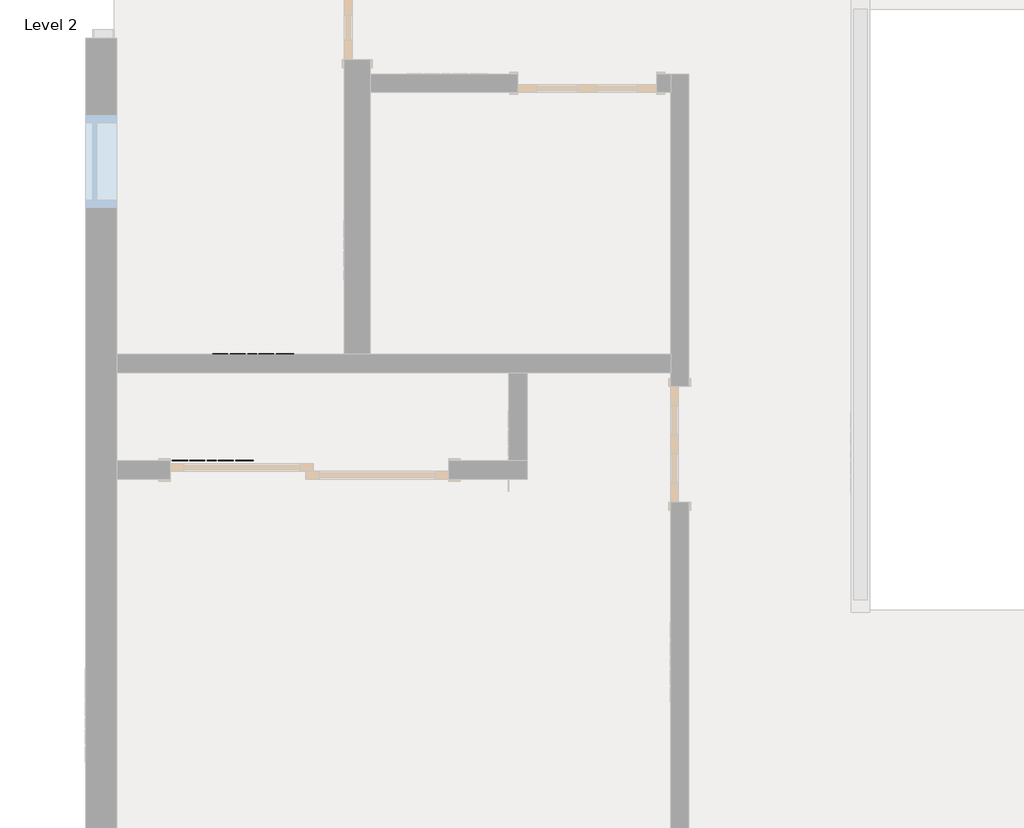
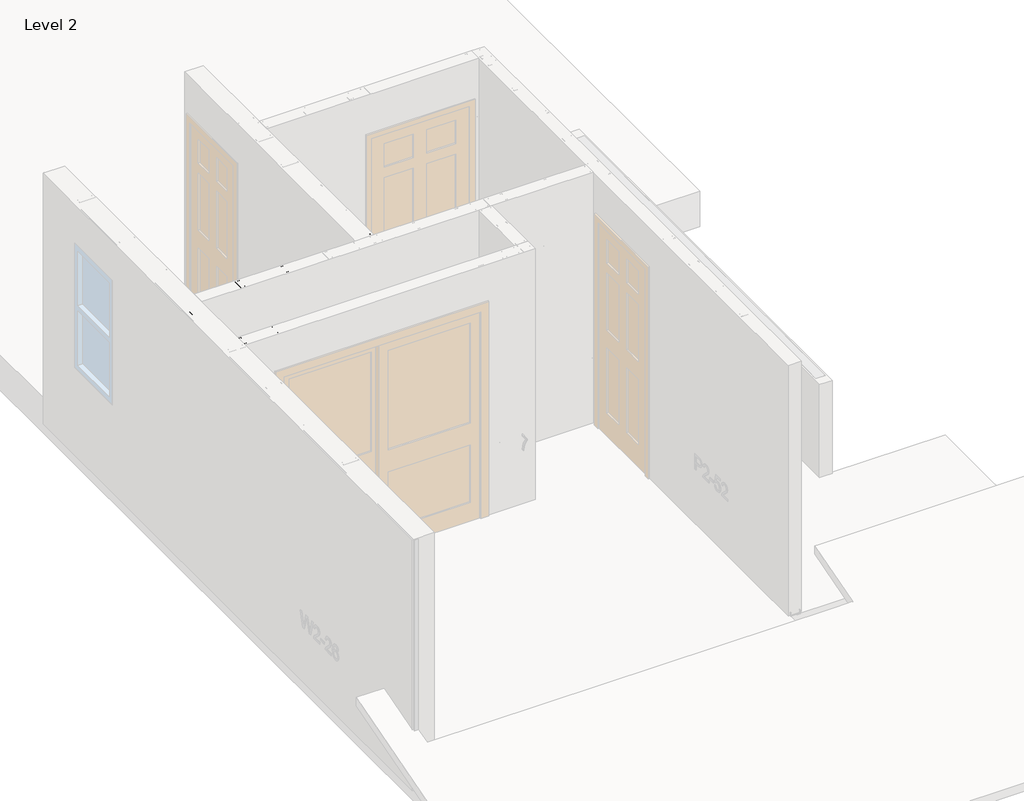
# One storey, part 8 of 46: 7 columns, 2 beams, 2 fasteners.
"""IFC4 building model written with IfcOpenShell, lengths in millimetres."""

from ifc_helpers import new_model, si_unit, point, frame, origin, place, context, project, spatial, circle_curve, ellipse_curve, trimmed, transform, mapped, element, save
from ifc_brep_helpers import plane_surface, extruded_surface, advanced_brep
from components import beam_350nf150_33_0c31a938, beam_350nf150_33_b683acd3, column_350nf150_33_a93e9d8a, panellabel_4ae247b8, panellabel_89169c42

model = new_model("IFC4")

# Units and contexts
model_context = context("Model", 3, world=origin())
ifc_project = project(units=[si_unit("LENGTHUNIT", "METRE", prefix="MILLI")], contexts=[model_context])

# Site, building, storey
site = spatial("IfcSite", under=ifc_project)
building = spatial("IfcBuilding", under=site)
storey = spatial("IfcBuildingStorey", under=building, Name="Level 2", Elevation=3060.7)

# Beams
placement = place(None, origin())
beam_350nf150_33_shape = beam_350nf150_33_0c31a938(model_context)
element("IfcBeam", 1, ObjectType="BIMSF-SSMA-S : 350NF150-33", at=placement, inside=storey, context=model_context, shape_type="MappedRepresentation", body=[
    mapped(beam_350nf150_33_shape, transform((-13289.0913349, 5769.102221, 3076.575), x_axis=(1.0000000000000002, 0.0, 0.0), y_axis=(0.0, 0.0, -1.0000000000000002), z_axis=(0.0, 1.0000000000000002, 0.0))),
])
beam_350nf150_33_2_shape = beam_350nf150_33_b683acd3(model_context)
element("IfcBeam", 2, ObjectType="BIMSF-SSMA-S : 350NF150-33", at=placement, inside=storey, context=model_context, shape_type="MappedRepresentation", body=[
    mapped(beam_350nf150_33_2_shape, transform((-14940.0913349, 5070.602221, 3076.575), x_axis=(1.0000000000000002, 0.0, 0.0), y_axis=(0.0, 0.0, -1.0000000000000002), z_axis=(0.0, 1.0000000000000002, 0.0))),
])

# Columns
element("IfcColumn", 3, ObjectType="BIMSF-SSMA-S-Column : 350NF150-33", at=placement, inside=storey, context=model_context, shape_type="AdvancedBrep", body=[
    advanced_brep(
    [(-15124.2413349, 5026.152221, 3061.5929687), (-15124.2413349, 5115.052221, 3061.5929687), (-15086.1413349, 5115.052221, 3061.5929687), (-15086.1413349, 5109.3947052, 3061.5929687), (-15087.0236507, 5109.3947052, 3061.5929687), (-15087.0236507, 5114.1699052, 3061.5929687), (-15123.3590191, 5114.1699052, 3061.5929687), (-15123.3590191, 5027.0345367, 3061.5929687), (-15087.0236507, 5027.0345367, 3061.5929687), (-15087.0236507, 5031.8097367, 3061.5929687), (-15086.1413349, 5031.8097367, 3061.5929687), (-15086.1413349, 5026.152221, 3061.5929687), (-15124.2413349, 5026.152221, 5523.6070313), (-15124.2413349, 5115.052221, 5523.6070313), (-15124.2413349, 5083.302221, 3671.1929688), (-15124.2413349, 5057.902221, 3671.1929688), (-15124.2413349, 5083.302221, 4890.3929687), (-15124.2413349, 5057.902221, 4890.3929687), (-15086.1413349, 5115.052221, 5523.6070313), (-15086.1413349, 5109.3947052, 5523.6070313), (-15087.0236507, 5109.3947052, 5523.6070313), (-15087.0236507, 5114.1699052, 5523.6070313), (-15123.3590191, 5114.1699052, 5523.6070313), (-15123.3590191, 5027.0345367, 5523.6070313), (-15123.3590191, 5057.902221, 3671.1929688), (-15123.3590191, 5083.302221, 3671.1929688), (-15123.3590191, 5057.902221, 4890.3929687), (-15123.3590191, 5083.302221, 4890.3929687), (-15087.0236507, 5027.0345367, 5523.6070313), (-15087.0236507, 5031.8097367, 5523.6070313), (-15086.1413349, 5031.8097367, 5523.6070313), (-15086.1413349, 5026.152221, 5523.6070313)],
    [
        (0, 1),
        (1, 2),
        (2, 3),
        (3, 4),
        (4, 5),
        (5, 6),
        (6, 7),
        (7, 8),
        (8, 9),
        (9, 10),
        (10, 11),
        (11, 0),
        (0, 12),
        (12, 13),
        (13, 1),
        (14, 15, circle_curve(frame((-15124.2413349, 5070.602221, 3671.1929687), z_axis=(1.0, 0.0, 0.0), x_axis=(0.0, 1.0, 0.0)), 12.7)),
        (15, 14, circle_curve(frame((-15124.2413349, 5070.602221, 3671.1929687), z_axis=(1.0, 0.0, 0.0), x_axis=(0.0, 1.0, 0.0)), 12.7)),
        (16, 17, circle_curve(frame((-15124.2413349, 5070.602221, 4890.3929687), z_axis=(1.0, 0.0, 0.0), x_axis=(0.0, 1.0, 0.0)), 12.7)),
        (17, 16, circle_curve(frame((-15124.2413349, 5070.602221, 4890.3929687), z_axis=(1.0, 0.0, 0.0), x_axis=(0.0, 1.0, 0.0)), 12.7)),
        (13, 18),
        (18, 2),
        (18, 19),
        (19, 3),
        (19, 20),
        (20, 4),
        (20, 21),
        (21, 5),
        (21, 22),
        (22, 6),
        (22, 23),
        (23, 7),
        (24, 25, circle_curve(frame((-15123.3590191, 5070.602221, 3671.1929688), z_axis=(-1.0, 0.0, 0.0), x_axis=(0.0, 1.0, 0.0)), 12.7)),
        (25, 24, circle_curve(frame((-15123.3590191, 5070.602221, 3671.1929688), z_axis=(-1.0, 0.0, 0.0), x_axis=(0.0, 1.0, 0.0)), 12.7)),
        (26, 27, circle_curve(frame((-15123.3590191, 5070.602221, 4890.3929687), z_axis=(-1.0, 0.0, 0.0), x_axis=(0.0, 1.0, 0.0)), 12.7)),
        (27, 26, circle_curve(frame((-15123.3590191, 5070.602221, 4890.3929687), z_axis=(-1.0, 0.0, 0.0), x_axis=(0.0, 1.0, 0.0)), 12.7)),
        (23, 28),
        (28, 8),
        (28, 29),
        (29, 9),
        (29, 30),
        (30, 10),
        (30, 31),
        (31, 11),
        (31, 12),
        (24, 15),
        (14, 25),
        (26, 17),
        (16, 27),
    ],
    [
        plane_surface(frame((-15124.2413349, 5026.152221, 3061.5929687), z_axis=(0.0, 0.0, -1.0), x_axis=(-1.0, 0.0, 0.0))),
        plane_surface(frame((-15124.2413349, 5115.052221, 5523.6070313), z_axis=(-1.0, 0.0, 0.0), x_axis=(0.0, 0.0, -1.0))),
        plane_surface(frame((-15086.1413349, 5115.052221, 5523.6070313), z_axis=(0.0, 1.0, 0.0), x_axis=(0.0, 0.0, -1.0))),
        plane_surface(frame((-15086.1413349, 5109.3947052, 5523.6070313), z_axis=(1.0, 0.0, 0.0), x_axis=(0.0, 0.0, -1.0))),
        plane_surface(frame((-15087.0236507, 5109.3947052, 5523.6070313), z_axis=(0.0, -1.0, 0.0), x_axis=(0.0, 0.0, -1.0))),
        plane_surface(frame((-15087.0236507, 5114.1699052, 5523.6070313), z_axis=(-1.0, 0.0, 0.0), x_axis=(0.0, 0.0, -1.0))),
        plane_surface(frame((-15123.3590191, 5114.1699052, 5523.6070313), z_axis=(0.0, -1.0, 0.0), x_axis=(0.0, 0.0, -1.0))),
        plane_surface(frame((-15123.3590191, 5027.0345367, 5523.6070313), z_axis=(1.0, 0.0, 0.0), x_axis=(0.0, 0.0, -1.0))),
        plane_surface(frame((-15087.0236507, 5027.0345367, 5523.6070313), z_axis=(0.0, 1.0, 0.0), x_axis=(0.0, 0.0, -1.0))),
        plane_surface(frame((-15087.0236507, 5031.8097367, 5523.6070313), z_axis=(-1.0, 0.0, 0.0), x_axis=(0.0, 0.0, -1.0))),
        plane_surface(frame((-15086.1413349, 5031.8097367, 5523.6070313), z_axis=(0.0, 1.0, 0.0), x_axis=(0.0, 0.0, -1.0))),
        plane_surface(frame((-15086.1413349, 5026.152221, 5523.6070313), z_axis=(1.0, 0.0, 0.0), x_axis=(0.0, 0.0, -1.0))),
        plane_surface(frame((-15124.2413349, 5026.152221, 5523.6070313), z_axis=(0.0, -1.0, 0.0), x_axis=(0.0, 0.0, -1.0))),
        plane_surface(frame((-15124.2413349, 5026.152221, 5523.6070313), z_axis=(0.0, 0.0, 1.0), x_axis=(1.0, 0.0, 0.0))),
        extruded_surface(trimmed(ellipse_curve(frame((-12643.1772724, 5070.602221, 3671.1929688), z_axis=(-1.0, 0.0, 0.0), x_axis=(0.0, 1.0, 0.0)), 12.7, 12.7), [point((-12643.1772724, 5057.902221, 3671.1929688))], [point((-12643.1772724, 5083.302221, 3671.1929688))], True, "CARTESIAN"), (4924.028125, 0.0, 0.0), 4924.028125),
        extruded_surface(trimmed(ellipse_curve(frame((-12643.1772724, 5070.602221, 3671.1929688), z_axis=(-1.0, 0.0, 0.0), x_axis=(0.0, 1.0, 0.0)), 12.7, 12.7), [point((-12643.1772724, 5083.302221, 3671.1929688))], [point((-12643.1772724, 5057.902221, 3671.1929688))], True, "CARTESIAN"), (4924.028125, 0.0, 0.0), 4924.028125),
        extruded_surface(trimmed(ellipse_curve(frame((-12643.1772724, 5070.602221, 4890.3929687), z_axis=(-1.0, 0.0, 0.0), x_axis=(0.0, 1.0, 0.0)), 12.7, 12.7), [point((-12643.1772724, 5057.902221, 4890.3929687))], [point((-12643.1772724, 5083.302221, 4890.3929687))], True, "CARTESIAN"), (4924.028125, 0.0, 0.0), 4924.028125),
        extruded_surface(trimmed(ellipse_curve(frame((-12643.1772724, 5070.602221, 4890.3929687), z_axis=(-1.0, 0.0, 0.0), x_axis=(0.0, 1.0, 0.0)), 12.7, 12.7), [point((-12643.1772724, 5083.302221, 4890.3929687))], [point((-12643.1772724, 5057.902221, 4890.3929687))], True, "CARTESIAN"), (4924.028125, 0.0, 0.0), 4924.028125),
    ],
    [
        (0, [[1, 2, 3, 4, 5, 6, 7, 8, 9, 10, 11, 12]]),
        (1, [[-1, 13, 14, 15], [16, 17], [18, 19]]),
        (2, [[-2, -15, 20, 21]]),
        (3, [[-3, -21, 22, 23]]),
        (4, [[-4, -23, 24, 25]]),
        (5, [[-5, -25, 26, 27]]),
        (6, [[-6, -27, 28, 29]]),
        (7, [[-7, -29, 30, 31], [32, 33], [34, 35]]),
        (8, [[-8, -31, 36, 37]]),
        (9, [[-9, -37, 38, 39]]),
        (10, [[-10, -39, 40, 41]]),
        (11, [[-11, -41, 42, 43]]),
        (12, [[-12, -43, 44, -13]]),
        (13, [[-14, -44, -42, -40, -38, -36, -30, -28, -26, -24, -22, -20]]),
        (14, [[45, -16, 46, -32]]),
        (15, [[-45, -33, -46, -17]]),
        (16, [[47, -18, 48, -34]]),
        (17, [[-47, -35, -48, -19]]),
    ],
),
])
element("IfcColumn", 4, ObjectType="BIMSF-SSMA-S-Column : 350NF150-33", at=placement, inside=storey, context=model_context, shape_type="AdvancedBrep", body=[
    advanced_brep(
    [(-15124.2413349, 5724.652221, 3061.5929687), (-15124.2413349, 5813.552221, 3061.5929687), (-15086.1413349, 5813.552221, 3061.5929687), (-15086.1413349, 5807.8947052, 3061.5929687), (-15087.0236507, 5807.8947052, 3061.5929687), (-15087.0236507, 5812.6699052, 3061.5929687), (-15123.3590191, 5812.6699052, 3061.5929687), (-15123.3590191, 5725.5345367, 3061.5929687), (-15087.0236507, 5725.5345367, 3061.5929687), (-15087.0236507, 5730.3097367, 3061.5929687), (-15086.1413349, 5730.3097367, 3061.5929687), (-15086.1413349, 5724.652221, 3061.5929687), (-15124.2413349, 5724.652221, 5523.6070313), (-15124.2413349, 5813.552221, 5523.6070313), (-15124.2413349, 5781.802221, 3671.1929688), (-15124.2413349, 5756.402221, 3671.1929688), (-15124.2413349, 5781.802221, 4890.3929687), (-15124.2413349, 5756.402221, 4890.3929687), (-15086.1413349, 5813.552221, 5523.6070313), (-15086.1413349, 5807.8947052, 5523.6070313), (-15087.0236507, 5807.8947052, 5523.6070313), (-15087.0236507, 5812.6699052, 5523.6070313), (-15123.3590191, 5812.6699052, 5523.6070313), (-15123.3590191, 5725.5345367, 5523.6070313), (-15123.3590191, 5756.402221, 3671.1929688), (-15123.3590191, 5781.802221, 3671.1929688), (-15123.3590191, 5756.402221, 4890.3929687), (-15123.3590191, 5781.802221, 4890.3929687), (-15087.0236507, 5725.5345367, 5523.6070313), (-15087.0236507, 5730.3097367, 5523.6070313), (-15086.1413349, 5730.3097367, 5523.6070313), (-15086.1413349, 5724.652221, 5523.6070313)],
    [
        (0, 1),
        (1, 2),
        (2, 3),
        (3, 4),
        (4, 5),
        (5, 6),
        (6, 7),
        (7, 8),
        (8, 9),
        (9, 10),
        (10, 11),
        (11, 0),
        (0, 12),
        (12, 13),
        (13, 1),
        (14, 15, circle_curve(frame((-15124.2413349, 5769.102221, 3671.1929687), z_axis=(1.0, 0.0, 0.0), x_axis=(0.0, 1.0, 0.0)), 12.7)),
        (15, 14, circle_curve(frame((-15124.2413349, 5769.102221, 3671.1929687), z_axis=(1.0, 0.0, 0.0), x_axis=(0.0, 1.0, 0.0)), 12.7)),
        (16, 17, circle_curve(frame((-15124.2413349, 5769.102221, 4890.3929687), z_axis=(1.0, 0.0, 0.0), x_axis=(0.0, 1.0, 0.0)), 12.7)),
        (17, 16, circle_curve(frame((-15124.2413349, 5769.102221, 4890.3929687), z_axis=(1.0, 0.0, 0.0), x_axis=(0.0, 1.0, 0.0)), 12.7)),
        (13, 18),
        (18, 2),
        (18, 19),
        (19, 3),
        (19, 20),
        (20, 4),
        (20, 21),
        (21, 5),
        (21, 22),
        (22, 6),
        (22, 23),
        (23, 7),
        (24, 25, circle_curve(frame((-15123.3590191, 5769.102221, 3671.1929688), z_axis=(-1.0, 0.0, 0.0), x_axis=(0.0, 1.0, 0.0)), 12.7)),
        (25, 24, circle_curve(frame((-15123.3590191, 5769.102221, 3671.1929688), z_axis=(-1.0, 0.0, 0.0), x_axis=(0.0, 1.0, 0.0)), 12.7)),
        (26, 27, circle_curve(frame((-15123.3590191, 5769.102221, 4890.3929687), z_axis=(-1.0, 0.0, 0.0), x_axis=(0.0, 1.0, 0.0)), 12.7)),
        (27, 26, circle_curve(frame((-15123.3590191, 5769.102221, 4890.3929687), z_axis=(-1.0, 0.0, 0.0), x_axis=(0.0, 1.0, 0.0)), 12.7)),
        (23, 28),
        (28, 8),
        (28, 29),
        (29, 9),
        (29, 30),
        (30, 10),
        (30, 31),
        (31, 11),
        (31, 12),
        (24, 15),
        (14, 25),
        (26, 17),
        (16, 27),
    ],
    [
        plane_surface(frame((-15124.2413349, 5724.652221, 3061.5929687), z_axis=(0.0, 0.0, -1.0), x_axis=(-1.0, 0.0, 0.0))),
        plane_surface(frame((-15124.2413349, 5813.552221, 5523.6070313), z_axis=(-1.0, 0.0, 0.0), x_axis=(0.0, 0.0, -1.0))),
        plane_surface(frame((-15086.1413349, 5813.552221, 5523.6070313), z_axis=(0.0, 1.0, 0.0), x_axis=(0.0, 0.0, -1.0))),
        plane_surface(frame((-15086.1413349, 5807.8947052, 5523.6070313), z_axis=(1.0, 0.0, 0.0), x_axis=(0.0, 0.0, -1.0))),
        plane_surface(frame((-15087.0236507, 5807.8947052, 5523.6070313), z_axis=(0.0, -1.0, 0.0), x_axis=(0.0, 0.0, -1.0))),
        plane_surface(frame((-15087.0236507, 5812.6699052, 5523.6070313), z_axis=(-1.0, 0.0, 0.0), x_axis=(0.0, 0.0, -1.0))),
        plane_surface(frame((-15123.3590191, 5812.6699052, 5523.6070313), z_axis=(0.0, -1.0, 0.0), x_axis=(0.0, 0.0, -1.0))),
        plane_surface(frame((-15123.3590191, 5725.5345367, 5523.6070313), z_axis=(1.0, 0.0, 0.0), x_axis=(0.0, 0.0, -1.0))),
        plane_surface(frame((-15087.0236507, 5725.5345367, 5523.6070313), z_axis=(0.0, 1.0, 0.0), x_axis=(0.0, 0.0, -1.0))),
        plane_surface(frame((-15087.0236507, 5730.3097367, 5523.6070313), z_axis=(-1.0, 0.0, 0.0), x_axis=(0.0, 0.0, -1.0))),
        plane_surface(frame((-15086.1413349, 5730.3097367, 5523.6070313), z_axis=(0.0, 1.0, 0.0), x_axis=(0.0, 0.0, -1.0))),
        plane_surface(frame((-15086.1413349, 5724.652221, 5523.6070313), z_axis=(1.0, 0.0, 0.0), x_axis=(0.0, 0.0, -1.0))),
        plane_surface(frame((-15124.2413349, 5724.652221, 5523.6070313), z_axis=(0.0, -1.0, 0.0), x_axis=(0.0, 0.0, -1.0))),
        plane_surface(frame((-15124.2413349, 5724.652221, 5523.6070313), z_axis=(0.0, 0.0, 1.0), x_axis=(1.0, 0.0, 0.0))),
        extruded_surface(trimmed(ellipse_curve(frame((-12643.1772724, 5769.102221, 3671.1929688), z_axis=(-1.0, 0.0, 0.0), x_axis=(0.0, 1.0, 0.0)), 12.7, 12.7), [point((-12643.1772724, 5756.402221, 3671.1929688))], [point((-12643.1772724, 5781.802221, 3671.1929688))], True, "CARTESIAN"), (4924.028125, 0.0, 0.0), 4924.028125),
        extruded_surface(trimmed(ellipse_curve(frame((-12643.1772724, 5769.102221, 3671.1929688), z_axis=(-1.0, 0.0, 0.0), x_axis=(0.0, 1.0, 0.0)), 12.7, 12.7), [point((-12643.1772724, 5781.802221, 3671.1929688))], [point((-12643.1772724, 5756.402221, 3671.1929688))], True, "CARTESIAN"), (4924.028125, 0.0, 0.0), 4924.028125),
        extruded_surface(trimmed(ellipse_curve(frame((-12643.1772724, 5769.102221, 4890.3929687), z_axis=(-1.0, 0.0, 0.0), x_axis=(0.0, 1.0, 0.0)), 12.7, 12.7), [point((-12643.1772724, 5756.402221, 4890.3929687))], [point((-12643.1772724, 5781.802221, 4890.3929687))], True, "CARTESIAN"), (4924.028125, 0.0, 0.0), 4924.028125),
        extruded_surface(trimmed(ellipse_curve(frame((-12643.1772724, 5769.102221, 4890.3929687), z_axis=(-1.0, 0.0, 0.0), x_axis=(0.0, 1.0, 0.0)), 12.7, 12.7), [point((-12643.1772724, 5781.802221, 4890.3929687))], [point((-12643.1772724, 5756.402221, 4890.3929687))], True, "CARTESIAN"), (4924.028125, 0.0, 0.0), 4924.028125),
    ],
    [
        (0, [[1, 2, 3, 4, 5, 6, 7, 8, 9, 10, 11, 12]]),
        (1, [[-1, 13, 14, 15], [16, 17], [18, 19]]),
        (2, [[-2, -15, 20, 21]]),
        (3, [[-3, -21, 22, 23]]),
        (4, [[-4, -23, 24, 25]]),
        (5, [[-5, -25, 26, 27]]),
        (6, [[-6, -27, 28, 29]]),
        (7, [[-7, -29, 30, 31], [32, 33], [34, 35]]),
        (8, [[-8, -31, 36, 37]]),
        (9, [[-9, -37, 38, 39]]),
        (10, [[-10, -39, 40, 41]]),
        (11, [[-11, -41, 42, 43]]),
        (12, [[-12, -43, 44, -13]]),
        (13, [[-14, -44, -42, -40, -38, -36, -30, -28, -26, -24, -22, -20]]),
        (14, [[45, -16, 46, -32]]),
        (15, [[-45, -33, -46, -17]]),
        (16, [[47, -18, 48, -34]]),
        (17, [[-47, -35, -48, -19]]),
    ],
),
])
element("IfcColumn", 5, ObjectType="BIMSF-SSMA-S-Column : 350NF150-33", at=placement, inside=storey, context=model_context, shape_type="AdvancedBrep", body=[
    advanced_brep(
    [(-14736.8913349, 5724.652221, 3061.5929687), (-14736.8913349, 5813.552221, 3061.5929687), (-14698.7913349, 5813.552221, 3061.5929687), (-14698.7913349, 5807.8947052, 3061.5929687), (-14699.6736507, 5807.8947052, 3061.5929687), (-14699.6736507, 5812.6699052, 3061.5929687), (-14736.0090191, 5812.6699052, 3061.5929687), (-14736.0090191, 5725.5345367, 3061.5929687), (-14699.6736507, 5725.5345367, 3061.5929687), (-14699.6736507, 5730.3097367, 3061.5929687), (-14698.7913349, 5730.3097367, 3061.5929687), (-14698.7913349, 5724.652221, 3061.5929687), (-14736.8913349, 5724.652221, 5523.6070313), (-14736.8913349, 5813.552221, 5523.6070313), (-14736.8913349, 5781.802221, 3671.1929688), (-14736.8913349, 5756.402221, 3671.1929688), (-14736.8913349, 5781.802221, 4890.3929687), (-14736.8913349, 5756.402221, 4890.3929687), (-14698.7913349, 5813.552221, 5523.6070313), (-14698.7913349, 5807.8947052, 5523.6070313), (-14699.6736507, 5807.8947052, 5523.6070313), (-14699.6736507, 5812.6699052, 5523.6070313), (-14736.0090191, 5812.6699052, 5523.6070313), (-14736.0090191, 5725.5345367, 5523.6070313), (-14736.0090191, 5756.402221, 3671.1929688), (-14736.0090191, 5781.802221, 3671.1929688), (-14736.0090191, 5756.402221, 4890.3929687), (-14736.0090191, 5781.802221, 4890.3929687), (-14699.6736507, 5725.5345367, 5523.6070313), (-14699.6736507, 5730.3097367, 5523.6070313), (-14698.7913349, 5730.3097367, 5523.6070313), (-14698.7913349, 5724.652221, 5523.6070313)],
    [
        (0, 1),
        (1, 2),
        (2, 3),
        (3, 4),
        (4, 5),
        (5, 6),
        (6, 7),
        (7, 8),
        (8, 9),
        (9, 10),
        (10, 11),
        (11, 0),
        (0, 12),
        (12, 13),
        (13, 1),
        (14, 15, circle_curve(frame((-14736.8913349, 5769.102221, 3671.1929688), z_axis=(1.0, 0.0, 0.0), x_axis=(0.0, 1.0, 0.0)), 12.7)),
        (15, 14, circle_curve(frame((-14736.8913349, 5769.102221, 3671.1929688), z_axis=(1.0, 0.0, 0.0), x_axis=(0.0, 1.0, 0.0)), 12.7)),
        (16, 17, circle_curve(frame((-14736.8913349, 5769.102221, 4890.3929687), z_axis=(1.0, 0.0, 0.0), x_axis=(0.0, 1.0, 0.0)), 12.7)),
        (17, 16, circle_curve(frame((-14736.8913349, 5769.102221, 4890.3929687), z_axis=(1.0, 0.0, 0.0), x_axis=(0.0, 1.0, 0.0)), 12.7)),
        (13, 18),
        (18, 2),
        (18, 19),
        (19, 3),
        (19, 20),
        (20, 4),
        (20, 21),
        (21, 5),
        (21, 22),
        (22, 6),
        (22, 23),
        (23, 7),
        (24, 25, circle_curve(frame((-14736.0090191, 5769.102221, 3671.1929688), z_axis=(-1.0, 0.0, 0.0), x_axis=(0.0, 1.0, 0.0)), 12.7)),
        (25, 24, circle_curve(frame((-14736.0090191, 5769.102221, 3671.1929688), z_axis=(-1.0, 0.0, 0.0), x_axis=(0.0, 1.0, 0.0)), 12.7)),
        (26, 27, circle_curve(frame((-14736.0090191, 5769.102221, 4890.3929687), z_axis=(-1.0, 0.0, 0.0), x_axis=(0.0, 1.0, 0.0)), 12.7)),
        (27, 26, circle_curve(frame((-14736.0090191, 5769.102221, 4890.3929687), z_axis=(-1.0, 0.0, 0.0), x_axis=(0.0, 1.0, 0.0)), 12.7)),
        (23, 28),
        (28, 8),
        (28, 29),
        (29, 9),
        (29, 30),
        (30, 10),
        (30, 31),
        (31, 11),
        (31, 12),
        (24, 15),
        (14, 25),
        (26, 17),
        (16, 27),
    ],
    [
        plane_surface(frame((-14736.8913349, 5724.652221, 3061.5929687), z_axis=(0.0, 0.0, -1.0), x_axis=(-1.0, 0.0, 0.0))),
        plane_surface(frame((-14736.8913349, 5813.552221, 5523.6070313), z_axis=(-1.0, 0.0, 0.0), x_axis=(0.0, 0.0, -1.0))),
        plane_surface(frame((-14698.7913349, 5813.552221, 5523.6070313), z_axis=(0.0, 1.0, 0.0), x_axis=(0.0, 0.0, -1.0))),
        plane_surface(frame((-14698.7913349, 5807.8947052, 5523.6070313), z_axis=(1.0, 0.0, 0.0), x_axis=(0.0, 0.0, -1.0))),
        plane_surface(frame((-14699.6736507, 5807.8947052, 5523.6070313), z_axis=(0.0, -1.0, 0.0), x_axis=(0.0, 0.0, -1.0))),
        plane_surface(frame((-14699.6736507, 5812.6699052, 5523.6070313), z_axis=(-1.0, 0.0, 0.0), x_axis=(0.0, 0.0, -1.0))),
        plane_surface(frame((-14736.0090191, 5812.6699052, 5523.6070313), z_axis=(0.0, -1.0, 0.0), x_axis=(0.0, 0.0, -1.0))),
        plane_surface(frame((-14736.0090191, 5725.5345367, 5523.6070313), z_axis=(1.0, 0.0, 0.0), x_axis=(0.0, 0.0, -1.0))),
        plane_surface(frame((-14699.6736507, 5725.5345367, 5523.6070313), z_axis=(0.0, 1.0, 0.0), x_axis=(0.0, 0.0, -1.0))),
        plane_surface(frame((-14699.6736507, 5730.3097367, 5523.6070313), z_axis=(-1.0, 0.0, 0.0), x_axis=(0.0, 0.0, -1.0))),
        plane_surface(frame((-14698.7913349, 5730.3097367, 5523.6070313), z_axis=(0.0, 1.0, 0.0), x_axis=(0.0, 0.0, -1.0))),
        plane_surface(frame((-14698.7913349, 5724.652221, 5523.6070313), z_axis=(1.0, 0.0, 0.0), x_axis=(0.0, 0.0, -1.0))),
        plane_surface(frame((-14736.8913349, 5724.652221, 5523.6070313), z_axis=(0.0, -1.0, 0.0), x_axis=(0.0, 0.0, -1.0))),
        plane_surface(frame((-14736.8913349, 5724.652221, 5523.6070313), z_axis=(0.0, 0.0, 1.0), x_axis=(1.0, 0.0, 0.0))),
        extruded_surface(trimmed(ellipse_curve(frame((-12255.8272724, 5769.102221, 3671.1929688), z_axis=(-1.0, 0.0, 0.0), x_axis=(0.0, 1.0, 0.0)), 12.7, 12.7), [point((-12255.8272724, 5756.402221, 3671.1929688))], [point((-12255.8272724, 5781.802221, 3671.1929688))], True, "CARTESIAN"), (4924.028125, 0.0, 0.0), 4924.028125),
        extruded_surface(trimmed(ellipse_curve(frame((-12255.8272724, 5769.102221, 3671.1929688), z_axis=(-1.0, 0.0, 0.0), x_axis=(0.0, 1.0, 0.0)), 12.7, 12.7), [point((-12255.8272724, 5781.802221, 3671.1929688))], [point((-12255.8272724, 5756.402221, 3671.1929688))], True, "CARTESIAN"), (4924.028125, 0.0, 0.0), 4924.028125),
        extruded_surface(trimmed(ellipse_curve(frame((-12255.8272724, 5769.102221, 4890.3929687), z_axis=(-1.0, 0.0, 0.0), x_axis=(0.0, 1.0, 0.0)), 12.7, 12.7), [point((-12255.8272724, 5756.402221, 4890.3929687))], [point((-12255.8272724, 5781.802221, 4890.3929687))], True, "CARTESIAN"), (4924.028125, 0.0, 0.0), 4924.028125),
        extruded_surface(trimmed(ellipse_curve(frame((-12255.8272724, 5769.102221, 4890.3929687), z_axis=(-1.0, 0.0, 0.0), x_axis=(0.0, 1.0, 0.0)), 12.7, 12.7), [point((-12255.8272724, 5781.802221, 4890.3929687))], [point((-12255.8272724, 5756.402221, 4890.3929687))], True, "CARTESIAN"), (4924.028125, 0.0, 0.0), 4924.028125),
    ],
    [
        (0, [[1, 2, 3, 4, 5, 6, 7, 8, 9, 10, 11, 12]]),
        (1, [[-1, 13, 14, 15], [16, 17], [18, 19]]),
        (2, [[-2, -15, 20, 21]]),
        (3, [[-3, -21, 22, 23]]),
        (4, [[-4, -23, 24, 25]]),
        (5, [[-5, -25, 26, 27]]),
        (6, [[-6, -27, 28, 29]]),
        (7, [[-7, -29, 30, 31], [32, 33], [34, 35]]),
        (8, [[-8, -31, 36, 37]]),
        (9, [[-9, -37, 38, 39]]),
        (10, [[-10, -39, 40, 41]]),
        (11, [[-11, -41, 42, 43]]),
        (12, [[-12, -43, 44, -13]]),
        (13, [[-14, -44, -42, -40, -38, -36, -30, -28, -26, -24, -22, -20]]),
        (14, [[45, -16, 46, -32]]),
        (15, [[-45, -33, -46, -17]]),
        (16, [[47, -18, 48, -34]]),
        (17, [[-47, -35, -48, -19]]),
    ],
),
])
element("IfcColumn", 6, ObjectType="BIMSF-SSMA-S-Column : 350NF150-33", at=placement, inside=storey, context=model_context, shape_type="AdvancedBrep", body=[
    advanced_brep(
    [(-14330.4913349, 5724.652221, 3061.5929687), (-14330.4913349, 5813.552221, 3061.5929687), (-14292.3913349, 5813.552221, 3061.5929687), (-14292.3913349, 5807.8947052, 3061.5929687), (-14293.2736507, 5807.8947052, 3061.5929687), (-14293.2736507, 5812.6699052, 3061.5929687), (-14329.6090191, 5812.6699052, 3061.5929687), (-14329.6090191, 5725.5345367, 3061.5929687), (-14293.2736507, 5725.5345367, 3061.5929687), (-14293.2736507, 5730.3097367, 3061.5929687), (-14292.3913349, 5730.3097367, 3061.5929687), (-14292.3913349, 5724.652221, 3061.5929687), (-14330.4913349, 5724.652221, 5523.6070313), (-14330.4913349, 5813.552221, 5523.6070313), (-14330.4913349, 5781.802221, 3671.1929688), (-14330.4913349, 5756.402221, 3671.1929688), (-14330.4913349, 5781.802221, 4890.3929687), (-14330.4913349, 5756.402221, 4890.3929687), (-14292.3913349, 5813.552221, 5523.6070313), (-14292.3913349, 5807.8947052, 5523.6070313), (-14293.2736507, 5807.8947052, 5523.6070313), (-14293.2736507, 5812.6699052, 5523.6070313), (-14329.6090191, 5812.6699052, 5523.6070313), (-14329.6090191, 5725.5345367, 5523.6070313), (-14329.6090191, 5756.402221, 3671.1929688), (-14329.6090191, 5781.802221, 3671.1929688), (-14329.6090191, 5756.402221, 4890.3929687), (-14329.6090191, 5781.802221, 4890.3929687), (-14293.2736507, 5725.5345367, 5523.6070313), (-14293.2736507, 5730.3097367, 5523.6070313), (-14292.3913349, 5730.3097367, 5523.6070313), (-14292.3913349, 5724.652221, 5523.6070313)],
    [
        (0, 1),
        (1, 2),
        (2, 3),
        (3, 4),
        (4, 5),
        (5, 6),
        (6, 7),
        (7, 8),
        (8, 9),
        (9, 10),
        (10, 11),
        (11, 0),
        (0, 12),
        (12, 13),
        (13, 1),
        (14, 15, circle_curve(frame((-14330.4913349, 5769.102221, 3671.1929688), z_axis=(1.0, 0.0, 0.0), x_axis=(0.0, 1.0, 0.0)), 12.7)),
        (15, 14, circle_curve(frame((-14330.4913349, 5769.102221, 3671.1929688), z_axis=(1.0, 0.0, 0.0), x_axis=(0.0, 1.0, 0.0)), 12.7)),
        (16, 17, circle_curve(frame((-14330.4913349, 5769.102221, 4890.3929687), z_axis=(1.0, 0.0, 0.0), x_axis=(0.0, 1.0, 0.0)), 12.7)),
        (17, 16, circle_curve(frame((-14330.4913349, 5769.102221, 4890.3929687), z_axis=(1.0, 0.0, 0.0), x_axis=(0.0, 1.0, 0.0)), 12.7)),
        (13, 18),
        (18, 2),
        (18, 19),
        (19, 3),
        (19, 20),
        (20, 4),
        (20, 21),
        (21, 5),
        (21, 22),
        (22, 6),
        (22, 23),
        (23, 7),
        (24, 25, circle_curve(frame((-14329.6090191, 5769.102221, 3671.1929688), z_axis=(-1.0, 0.0, 0.0), x_axis=(0.0, 1.0, 0.0)), 12.7)),
        (25, 24, circle_curve(frame((-14329.6090191, 5769.102221, 3671.1929688), z_axis=(-1.0, 0.0, 0.0), x_axis=(0.0, 1.0, 0.0)), 12.7)),
        (26, 27, circle_curve(frame((-14329.6090191, 5769.102221, 4890.3929687), z_axis=(-1.0, 0.0, 0.0), x_axis=(0.0, 1.0, 0.0)), 12.7)),
        (27, 26, circle_curve(frame((-14329.6090191, 5769.102221, 4890.3929687), z_axis=(-1.0, 0.0, 0.0), x_axis=(0.0, 1.0, 0.0)), 12.7)),
        (23, 28),
        (28, 8),
        (28, 29),
        (29, 9),
        (29, 30),
        (30, 10),
        (30, 31),
        (31, 11),
        (31, 12),
        (24, 15),
        (14, 25),
        (26, 17),
        (16, 27),
    ],
    [
        plane_surface(frame((-14330.4913349, 5724.652221, 3061.5929687), z_axis=(0.0, 0.0, -1.0), x_axis=(-1.0, 0.0, 0.0))),
        plane_surface(frame((-14330.4913349, 5813.552221, 5523.6070313), z_axis=(-1.0, 0.0, 0.0), x_axis=(0.0, 0.0, -1.0))),
        plane_surface(frame((-14292.3913349, 5813.552221, 5523.6070313), z_axis=(0.0, 1.0, 0.0), x_axis=(0.0, 0.0, -1.0))),
        plane_surface(frame((-14292.3913349, 5807.8947052, 5523.6070313), z_axis=(1.0, 0.0, 0.0), x_axis=(0.0, 0.0, -1.0))),
        plane_surface(frame((-14293.2736507, 5807.8947052, 5523.6070313), z_axis=(0.0, -1.0, 0.0), x_axis=(0.0, 0.0, -1.0))),
        plane_surface(frame((-14293.2736507, 5812.6699052, 5523.6070313), z_axis=(-1.0, 0.0, 0.0), x_axis=(0.0, 0.0, -1.0))),
        plane_surface(frame((-14329.6090191, 5812.6699052, 5523.6070313), z_axis=(0.0, -1.0, 0.0), x_axis=(0.0, 0.0, -1.0))),
        plane_surface(frame((-14329.6090191, 5725.5345367, 5523.6070313), z_axis=(1.0, 0.0, 0.0), x_axis=(0.0, 0.0, -1.0))),
        plane_surface(frame((-14293.2736507, 5725.5345367, 5523.6070313), z_axis=(0.0, 1.0, 0.0), x_axis=(0.0, 0.0, -1.0))),
        plane_surface(frame((-14293.2736507, 5730.3097367, 5523.6070313), z_axis=(-1.0, 0.0, 0.0), x_axis=(0.0, 0.0, -1.0))),
        plane_surface(frame((-14292.3913349, 5730.3097367, 5523.6070313), z_axis=(0.0, 1.0, 0.0), x_axis=(0.0, 0.0, -1.0))),
        plane_surface(frame((-14292.3913349, 5724.652221, 5523.6070313), z_axis=(1.0, 0.0, 0.0), x_axis=(0.0, 0.0, -1.0))),
        plane_surface(frame((-14330.4913349, 5724.652221, 5523.6070313), z_axis=(0.0, -1.0, 0.0), x_axis=(0.0, 0.0, -1.0))),
        plane_surface(frame((-14330.4913349, 5724.652221, 5523.6070313), z_axis=(0.0, 0.0, 1.0), x_axis=(1.0, 0.0, 0.0))),
        extruded_surface(trimmed(ellipse_curve(frame((-11849.4272724, 5769.102221, 3671.1929688), z_axis=(-1.0, 0.0, 0.0), x_axis=(0.0, 1.0, 0.0)), 12.7, 12.7), [point((-11849.4272724, 5756.402221, 3671.1929688))], [point((-11849.4272724, 5781.802221, 3671.1929688))], True, "CARTESIAN"), (4924.028125, 0.0, 0.0), 4924.028125),
        extruded_surface(trimmed(ellipse_curve(frame((-11849.4272724, 5769.102221, 3671.1929688), z_axis=(-1.0, 0.0, 0.0), x_axis=(0.0, 1.0, 0.0)), 12.7, 12.7), [point((-11849.4272724, 5781.802221, 3671.1929688))], [point((-11849.4272724, 5756.402221, 3671.1929688))], True, "CARTESIAN"), (4924.028125, 0.0, 0.0), 4924.028125),
        extruded_surface(trimmed(ellipse_curve(frame((-11849.4272724, 5769.102221, 4890.3929687), z_axis=(-1.0, 0.0, 0.0), x_axis=(0.0, 1.0, 0.0)), 12.7, 12.7), [point((-11849.4272724, 5756.402221, 4890.3929687))], [point((-11849.4272724, 5781.802221, 4890.3929687))], True, "CARTESIAN"), (4924.028125, 0.0, 0.0), 4924.028125),
        extruded_surface(trimmed(ellipse_curve(frame((-11849.4272724, 5769.102221, 4890.3929687), z_axis=(-1.0, 0.0, 0.0), x_axis=(0.0, 1.0, 0.0)), 12.7, 12.7), [point((-11849.4272724, 5781.802221, 4890.3929687))], [point((-11849.4272724, 5756.402221, 4890.3929687))], True, "CARTESIAN"), (4924.028125, 0.0, 0.0), 4924.028125),
    ],
    [
        (0, [[1, 2, 3, 4, 5, 6, 7, 8, 9, 10, 11, 12]]),
        (1, [[-1, 13, 14, 15], [16, 17], [18, 19]]),
        (2, [[-2, -15, 20, 21]]),
        (3, [[-3, -21, 22, 23]]),
        (4, [[-4, -23, 24, 25]]),
        (5, [[-5, -25, 26, 27]]),
        (6, [[-6, -27, 28, 29]]),
        (7, [[-7, -29, 30, 31], [32, 33], [34, 35]]),
        (8, [[-8, -31, 36, 37]]),
        (9, [[-9, -37, 38, 39]]),
        (10, [[-10, -39, 40, 41]]),
        (11, [[-11, -41, 42, 43]]),
        (12, [[-12, -43, 44, -13]]),
        (13, [[-14, -44, -42, -40, -38, -36, -30, -28, -26, -24, -22, -20]]),
        (14, [[45, -16, 46, -32]]),
        (15, [[-45, -33, -46, -17]]),
        (16, [[47, -18, 48, -34]]),
        (17, [[-47, -35, -48, -19]]),
    ],
),
])
column_350nf150_33_shape = column_350nf150_33_a93e9d8a(model_context)
element("IfcColumn", 7, ObjectType="BIMSF-SSMA-S-Column : 350NF150-33", at=placement, inside=storey, context=model_context, shape_type="MappedRepresentation", body=[
    mapped(column_350nf150_33_shape, transform((-14767.9391226, 5059.865096, 0.0), x_axis=(-1.0, 0.0, 0.0), y_axis=(0.0, -1.0, 0.0), z_axis=(0.0, 0.0, 1.0))),
])
element("IfcColumn", 8, ObjectType="BIMSF-SSMA-S-Column : 550NF150-33", at=placement, inside=storey, context=model_context, shape_type="AdvancedBrep", body=[
    advanced_brep(
    [(-13457.3663349, 5813.552221, 3061.5929687), (-13597.0663349, 5813.552221, 3061.5929687), (-13597.0663349, 5851.652221, 3061.5929687), (-13591.4088191, 5851.652221, 3061.5929687), (-13591.4088191, 5850.7699052, 3061.5929687), (-13596.1840191, 5850.7699052, 3061.5929687), (-13596.1840191, 5814.4345367, 3061.5929687), (-13458.2486507, 5814.4345367, 3061.5929687), (-13458.2486507, 5850.7699052, 3061.5929687), (-13463.0238507, 5850.7699052, 3061.5929687), (-13463.0238507, 5851.652221, 3061.5929687), (-13457.3663349, 5851.652221, 3061.5929687), (-13457.3663349, 5813.552221, 5523.6070313), (-13597.0663349, 5813.552221, 5523.6070313), (-13539.9163349, 5813.552221, 3671.1929687), (-13514.5163349, 5813.552221, 3671.1929687), (-13539.9163349, 5813.552221, 4890.3929687), (-13514.5163349, 5813.552221, 4890.3929687), (-13597.0663349, 5851.652221, 5523.6070313), (-13591.4088191, 5851.652221, 5523.6070313), (-13591.4088191, 5850.7699052, 5523.6070313), (-13596.1840191, 5850.7699052, 5523.6070313), (-13596.1840191, 5814.4345367, 5523.6070313), (-13458.2486507, 5814.4345367, 5523.6070313), (-13514.5163349, 5814.4345367, 3671.1929688), (-13539.9163349, 5814.4345367, 3671.1929688), (-13514.5163349, 5814.4345367, 4890.3929687), (-13539.9163349, 5814.4345367, 4890.3929687), (-13458.2486507, 5850.7699052, 5523.6070313), (-13463.0238507, 5850.7699052, 5523.6070313), (-13463.0238507, 5851.652221, 5523.6070313), (-13457.3663349, 5851.652221, 5523.6070313)],
    [
        (0, 1),
        (1, 2),
        (2, 3),
        (3, 4),
        (4, 5),
        (5, 6),
        (6, 7),
        (7, 8),
        (8, 9),
        (9, 10),
        (10, 11),
        (11, 0),
        (0, 12),
        (12, 13),
        (13, 1),
        (14, 15, circle_curve(frame((-13527.2163349, 5813.552221, 3671.1929688), z_axis=(0.0, 1.0, 0.0), x_axis=(-1.0, 0.0, 0.0)), 12.7)),
        (15, 14, circle_curve(frame((-13527.2163349, 5813.552221, 3671.1929688), z_axis=(0.0, 1.0, 0.0), x_axis=(-1.0, 0.0, 0.0)), 12.7)),
        (16, 17, circle_curve(frame((-13527.2163349, 5813.552221, 4890.3929687), z_axis=(0.0, 1.0, 0.0), x_axis=(-1.0, 0.0, 0.0)), 12.7)),
        (17, 16, circle_curve(frame((-13527.2163349, 5813.552221, 4890.3929687), z_axis=(0.0, 1.0, 0.0), x_axis=(-1.0, 0.0, 0.0)), 12.7)),
        (13, 18),
        (18, 2),
        (18, 19),
        (19, 3),
        (19, 20),
        (20, 4),
        (20, 21),
        (21, 5),
        (21, 22),
        (22, 6),
        (22, 23),
        (23, 7),
        (24, 25, circle_curve(frame((-13527.2163349, 5814.4345367, 3671.1929687), z_axis=(0.0, -1.0, 0.0), x_axis=(-1.0, 0.0, 0.0)), 12.7)),
        (25, 24, circle_curve(frame((-13527.2163349, 5814.4345367, 3671.1929687), z_axis=(0.0, -1.0, 0.0), x_axis=(-1.0, 0.0, 0.0)), 12.7)),
        (26, 27, circle_curve(frame((-13527.2163349, 5814.4345367, 4890.3929687), z_axis=(0.0, -1.0, 0.0), x_axis=(-1.0, 0.0, 0.0)), 12.7)),
        (27, 26, circle_curve(frame((-13527.2163349, 5814.4345367, 4890.3929687), z_axis=(0.0, -1.0, 0.0), x_axis=(-1.0, 0.0, 0.0)), 12.7)),
        (23, 28),
        (28, 8),
        (28, 29),
        (29, 9),
        (29, 30),
        (30, 10),
        (30, 31),
        (31, 11),
        (31, 12),
        (24, 15),
        (14, 25),
        (26, 17),
        (16, 27),
    ],
    [
        plane_surface(frame((-13457.3663349, 5813.552221, 3061.5929687), z_axis=(0.0, 0.0, -1.0), x_axis=(0.0, -1.0, 0.0))),
        plane_surface(frame((-13597.0663349, 5813.552221, 5523.6070313), z_axis=(0.0, -1.0, 0.0), x_axis=(0.0, 0.0, -1.0))),
        plane_surface(frame((-13597.0663349, 5851.652221, 5523.6070313), z_axis=(-1.0, 0.0, 0.0), x_axis=(0.0, 0.0, -1.0))),
        plane_surface(frame((-13591.4088191, 5851.652221, 5523.6070313), z_axis=(0.0, 1.0, 0.0), x_axis=(0.0, 0.0, -1.0))),
        plane_surface(frame((-13591.4088191, 5850.7699052, 5523.6070313), z_axis=(1.0, 0.0, 0.0), x_axis=(0.0, 0.0, -1.0))),
        plane_surface(frame((-13596.1840191, 5850.7699052, 5523.6070313), z_axis=(0.0, -1.0, 0.0), x_axis=(0.0, 0.0, -1.0))),
        plane_surface(frame((-13596.1840191, 5814.4345367, 5523.6070313), z_axis=(1.0, 0.0, 0.0), x_axis=(0.0, 0.0, -1.0))),
        plane_surface(frame((-13458.2486507, 5814.4345367, 5523.6070313), z_axis=(0.0, 1.0, 0.0), x_axis=(0.0, 0.0, -1.0))),
        plane_surface(frame((-13458.2486507, 5850.7699052, 5523.6070313), z_axis=(-1.0, 0.0, 0.0), x_axis=(0.0, 0.0, -1.0))),
        plane_surface(frame((-13463.0238507, 5850.7699052, 5523.6070313), z_axis=(0.0, -1.0, 0.0), x_axis=(0.0, 0.0, -1.0))),
        plane_surface(frame((-13463.0238507, 5851.652221, 5523.6070313), z_axis=(-1.0, 0.0, 0.0), x_axis=(0.0, 0.0, -1.0))),
        plane_surface(frame((-13457.3663349, 5851.652221, 5523.6070313), z_axis=(0.0, 1.0, 0.0), x_axis=(0.0, 0.0, -1.0))),
        plane_surface(frame((-13457.3663349, 5813.552221, 5523.6070313), z_axis=(1.0, 0.0, 0.0), x_axis=(0.0, 0.0, -1.0))),
        plane_surface(frame((-13457.3663349, 5813.552221, 5523.6070313), z_axis=(0.0, 0.0, 1.0), x_axis=(0.0, 1.0, 0.0))),
        extruded_surface(trimmed(ellipse_curve(frame((-13527.2163349, 8294.6162835, 3671.1929688), z_axis=(0.0, -1.0, 0.0), x_axis=(-1.0, 0.0, 0.0)), 12.7, 12.7), [point((-13514.5163349, 8294.6162835, 3671.1929688))], [point((-13539.9163349, 8294.6162835, 3671.1929688))], True, "CARTESIAN"), (0.0, 4924.028125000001, 0.0), 4924.028125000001),
        extruded_surface(trimmed(ellipse_curve(frame((-13527.2163349, 8294.6162835, 3671.1929688), z_axis=(0.0, -1.0, 0.0), x_axis=(-1.0, 0.0, 0.0)), 12.7, 12.7), [point((-13539.9163349, 8294.6162835, 3671.1929688))], [point((-13514.5163349, 8294.6162835, 3671.1929688))], True, "CARTESIAN"), (0.0, 4924.028125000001, 0.0), 4924.028125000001),
        extruded_surface(trimmed(ellipse_curve(frame((-13527.2163349, 8294.6162835, 4890.3929687), z_axis=(0.0, -1.0, 0.0), x_axis=(-1.0, 0.0, 0.0)), 12.7, 12.7), [point((-13514.5163349, 8294.6162835, 4890.3929687))], [point((-13539.9163349, 8294.6162835, 4890.3929687))], True, "CARTESIAN"), (0.0, 4924.028125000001, 0.0), 4924.028125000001),
        extruded_surface(trimmed(ellipse_curve(frame((-13527.2163349, 8294.6162835, 4890.3929687), z_axis=(0.0, -1.0, 0.0), x_axis=(-1.0, 0.0, 0.0)), 12.7, 12.7), [point((-13539.9163349, 8294.6162835, 4890.3929687))], [point((-13514.5163349, 8294.6162835, 4890.3929687))], True, "CARTESIAN"), (0.0, 4924.028125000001, 0.0), 4924.028125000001),
    ],
    [
        (0, [[1, 2, 3, 4, 5, 6, 7, 8, 9, 10, 11, 12]]),
        (1, [[-1, 13, 14, 15], [16, 17], [18, 19]]),
        (2, [[-2, -15, 20, 21]]),
        (3, [[-3, -21, 22, 23]]),
        (4, [[-4, -23, 24, 25]]),
        (5, [[-5, -25, 26, 27]]),
        (6, [[-6, -27, 28, 29]]),
        (7, [[-7, -29, 30, 31], [32, 33], [34, 35]]),
        (8, [[-8, -31, 36, 37]]),
        (9, [[-9, -37, 38, 39]]),
        (10, [[-10, -39, 40, 41]]),
        (11, [[-11, -41, 42, 43]]),
        (12, [[-12, -43, 44, -13]]),
        (13, [[-14, -44, -42, -40, -38, -36, -30, -28, -26, -24, -22, -20]]),
        (14, [[45, -16, 46, -32]]),
        (15, [[-45, -33, -46, -17]]),
        (16, [[47, -18, 48, -34]]),
        (17, [[-47, -35, -48, -19]]),
    ],
),
])
element("IfcColumn", 9, ObjectType="BIMSF-SSMA-S-Column : 550NF150-43", at=placement, inside=storey, context=model_context, shape_type="AdvancedBrep", body=[
    advanced_brep(
    [(-15124.2413349, 5591.302221, 3061.5929687), (-15263.9413349, 5591.302221, 3061.5929687), (-15263.9413349, 5629.402221, 3061.5929687), (-15258.0164507, 5629.402221, 3061.5929687), (-15258.0164507, 5628.2525367, 3061.5929687), (-15262.7916507, 5628.2525367, 3061.5929687), (-15262.7916507, 5592.4519052, 3061.5929687), (-15125.3910191, 5592.4519052, 3061.5929687), (-15125.3910191, 5628.2525367, 3061.5929687), (-15130.1662191, 5628.2525367, 3061.5929687), (-15130.1662191, 5629.402221, 3061.5929687), (-15124.2413349, 5629.402221, 3061.5929687), (-15124.2413349, 5591.302221, 5523.6070313), (-15263.9413349, 5591.302221, 5523.6070313), (-15206.7913349, 5591.302221, 3671.1929687), (-15181.3913349, 5591.302221, 3671.1929687), (-15206.7913349, 5591.302221, 4890.3929687), (-15181.3913349, 5591.302221, 4890.3929687), (-15263.9413349, 5629.402221, 5523.6070313), (-15258.0164507, 5629.402221, 5523.6070313), (-15258.0164507, 5628.2525367, 5523.6070313), (-15262.7916507, 5628.2525367, 5523.6070313), (-15262.7916507, 5592.4519052, 5523.6070313), (-15125.3910191, 5592.4519052, 5523.6070313), (-15181.3913349, 5592.4519052, 3671.1929688), (-15206.7913349, 5592.4519052, 3671.1929688), (-15181.3913349, 5592.4519052, 4890.3929687), (-15206.7913349, 5592.4519052, 4890.3929687), (-15125.3910191, 5628.2525367, 5523.6070313), (-15130.1662191, 5628.2525367, 5523.6070313), (-15130.1662191, 5629.402221, 5523.6070313), (-15124.2413349, 5629.402221, 5523.6070313)],
    [
        (0, 1),
        (1, 2),
        (2, 3),
        (3, 4),
        (4, 5),
        (5, 6),
        (6, 7),
        (7, 8),
        (8, 9),
        (9, 10),
        (10, 11),
        (11, 0),
        (0, 12),
        (12, 13),
        (13, 1),
        (14, 15, circle_curve(frame((-15194.0913349, 5591.302221, 3671.1929687), z_axis=(0.0, 1.0, 0.0), x_axis=(-1.0, 0.0, 0.0)), 12.7)),
        (15, 14, circle_curve(frame((-15194.0913349, 5591.302221, 3671.1929688), z_axis=(0.0, 1.0, 0.0), x_axis=(-1.0, 0.0, 0.0)), 12.7)),
        (16, 17, circle_curve(frame((-15194.0913349, 5591.302221, 4890.3929687), z_axis=(0.0, 1.0, 0.0), x_axis=(-1.0, 0.0, 0.0)), 12.7)),
        (17, 16, circle_curve(frame((-15194.0913349, 5591.302221, 4890.3929687), z_axis=(0.0, 1.0, 0.0), x_axis=(-1.0, 0.0, 0.0)), 12.7)),
        (13, 18),
        (18, 2),
        (18, 19),
        (19, 3),
        (19, 20),
        (20, 4),
        (20, 21),
        (21, 5),
        (21, 22),
        (22, 6),
        (22, 23),
        (23, 7),
        (24, 25, circle_curve(frame((-15194.0913349, 5592.4519052, 3671.1929688), z_axis=(0.0, -1.0, 0.0), x_axis=(-1.0, 0.0, 0.0)), 12.7)),
        (25, 24, circle_curve(frame((-15194.0913349, 5592.4519052, 3671.1929687), z_axis=(0.0, -1.0, 0.0), x_axis=(-1.0, 0.0, 0.0)), 12.7)),
        (26, 27, circle_curve(frame((-15194.0913349, 5592.4519052, 4890.3929687), z_axis=(0.0, -1.0, 0.0), x_axis=(-1.0, 0.0, 0.0)), 12.7)),
        (27, 26, circle_curve(frame((-15194.0913349, 5592.4519052, 4890.3929687), z_axis=(0.0, -1.0, 0.0), x_axis=(-1.0, 0.0, 0.0)), 12.7)),
        (23, 28),
        (28, 8),
        (28, 29),
        (29, 9),
        (29, 30),
        (30, 10),
        (30, 31),
        (31, 11),
        (31, 12),
        (24, 15),
        (14, 25),
        (26, 17),
        (16, 27),
    ],
    [
        plane_surface(frame((-15124.2413349, 5591.302221, 3061.5929687), z_axis=(0.0, 0.0, -1.0), x_axis=(0.0, -1.0, 0.0))),
        plane_surface(frame((-15263.9413349, 5591.302221, 5523.6070313), z_axis=(0.0, -1.0, 0.0), x_axis=(0.0, 0.0, -1.0))),
        plane_surface(frame((-15263.9413349, 5629.402221, 5523.6070313), z_axis=(-1.0, 0.0, 0.0), x_axis=(0.0, 0.0, -1.0))),
        plane_surface(frame((-15258.0164507, 5629.402221, 5523.6070313), z_axis=(0.0, 1.0, 0.0), x_axis=(0.0, 0.0, -1.0))),
        plane_surface(frame((-15258.0164507, 5628.2525367, 5523.6070313), z_axis=(1.0, 0.0, 0.0), x_axis=(0.0, 0.0, -1.0))),
        plane_surface(frame((-15262.7916507, 5628.2525367, 5523.6070313), z_axis=(0.0, -1.0, 0.0), x_axis=(0.0, 0.0, -1.0))),
        plane_surface(frame((-15262.7916507, 5592.4519052, 5523.6070313), z_axis=(1.0, 0.0, 0.0), x_axis=(0.0, 0.0, -1.0))),
        plane_surface(frame((-15125.3910191, 5592.4519052, 5523.6070313), z_axis=(0.0, 1.0, 0.0), x_axis=(0.0, 0.0, -1.0))),
        plane_surface(frame((-15125.3910191, 5628.2525367, 5523.6070313), z_axis=(-1.0, 0.0, 0.0), x_axis=(0.0, 0.0, -1.0))),
        plane_surface(frame((-15130.1662191, 5628.2525367, 5523.6070313), z_axis=(0.0, -1.0, 0.0), x_axis=(0.0, 0.0, -1.0))),
        plane_surface(frame((-15130.1662191, 5629.402221, 5523.6070313), z_axis=(-1.0, 0.0, 0.0), x_axis=(0.0, 0.0, -1.0))),
        plane_surface(frame((-15124.2413349, 5629.402221, 5523.6070313), z_axis=(0.0, 1.0, 0.0), x_axis=(0.0, 0.0, -1.0))),
        plane_surface(frame((-15124.2413349, 5591.302221, 5523.6070313), z_axis=(1.0, 0.0, 0.0), x_axis=(0.0, 0.0, -1.0))),
        plane_surface(frame((-15124.2413349, 5591.302221, 5523.6070313), z_axis=(0.0, 0.0, 1.0), x_axis=(0.0, 1.0, 0.0))),
        extruded_surface(trimmed(ellipse_curve(frame((-15194.0913349, 8072.3662835, 3671.1929688), z_axis=(0.0, -1.0, 0.0), x_axis=(-1.0, 0.0, 0.0)), 12.7, 12.7), [point((-15181.3913349, 8072.3662835, 3671.1929688))], [point((-15206.7913349, 8072.3662835, 3671.1929688))], True, "CARTESIAN"), (0.0, 4924.028125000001, 0.0), 4924.028125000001),
        extruded_surface(trimmed(ellipse_curve(frame((-15194.0913349, 8072.3662835, 3671.1929688), z_axis=(0.0, -1.0, 0.0), x_axis=(-1.0, 0.0, 0.0)), 12.7, 12.7), [point((-15206.7913349, 8072.3662835, 3671.1929688))], [point((-15181.3913349, 8072.3662835, 3671.1929688))], True, "CARTESIAN"), (0.0, 4924.028125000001, 0.0), 4924.028125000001),
        extruded_surface(trimmed(ellipse_curve(frame((-15194.0913349, 8072.3662835, 4890.3929687), z_axis=(0.0, -1.0, 0.0), x_axis=(-1.0, 0.0, 0.0)), 12.7, 12.7), [point((-15181.3913349, 8072.3662835, 4890.3929687))], [point((-15206.7913349, 8072.3662835, 4890.3929687))], True, "CARTESIAN"), (0.0, 4924.028125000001, 0.0), 4924.028125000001),
        extruded_surface(trimmed(ellipse_curve(frame((-15194.0913349, 8072.3662835, 4890.3929687), z_axis=(0.0, -1.0, 0.0), x_axis=(-1.0, 0.0, 0.0)), 12.7, 12.7), [point((-15206.7913349, 8072.3662835, 4890.3929687))], [point((-15181.3913349, 8072.3662835, 4890.3929687))], True, "CARTESIAN"), (0.0, 4924.028125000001, 0.0), 4924.028125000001),
    ],
    [
        (0, [[1, 2, 3, 4, 5, 6, 7, 8, 9, 10, 11, 12]]),
        (1, [[-1, 13, 14, 15], [16, 17], [18, 19]]),
        (2, [[-2, -15, 20, 21]]),
        (3, [[-3, -21, 22, 23]]),
        (4, [[-4, -23, 24, 25]]),
        (5, [[-5, -25, 26, 27]]),
        (6, [[-6, -27, 28, 29]]),
        (7, [[-7, -29, 30, 31], [32, 33], [34, 35]]),
        (8, [[-8, -31, 36, 37]]),
        (9, [[-9, -37, 38, 39]]),
        (10, [[-10, -39, 40, 41]]),
        (11, [[-11, -41, 42, 43]]),
        (12, [[-12, -43, 44, -13]]),
        (13, [[-14, -44, -42, -40, -38, -36, -30, -28, -26, -24, -22, -20]]),
        (14, [[45, -16, 46, -32]]),
        (15, [[-45, -33, -46, -17]]),
        (16, [[47, -18, 48, -34]]),
        (17, [[-47, -35, -48, -19]]),
    ],
),
])

# Fasteners
panellabel_shape = panellabel_4ae247b8(model_context)
element("IfcFastener", 10, ObjectType="PanelLabel : Miranda", at=placement, inside=storey, context=model_context, shape_type="MappedRepresentation", body=[
    mapped(panellabel_shape, transform((-14206.6663349, 5769.102221, 2289.5386234), x_axis=(1.0, 0.0, 0.0), y_axis=(0.0, 1.0, 0.0), z_axis=(0.0, 0.0, 1.0))),
])
panellabel_2_shape = panellabel_89169c42(model_context)
element("IfcFastener", 11, ObjectType="PanelLabel : Miranda", at=placement, inside=storey, context=model_context, shape_type="MappedRepresentation", body=[
    mapped(panellabel_2_shape, transform((-14472.5725849, 5070.602221, 2289.7232245), x_axis=(1.0, 0.0, 0.0), y_axis=(0.0, 1.0, 0.0), z_axis=(0.0, 0.0, 1.0))),
])

save(model, "model.ifc")
